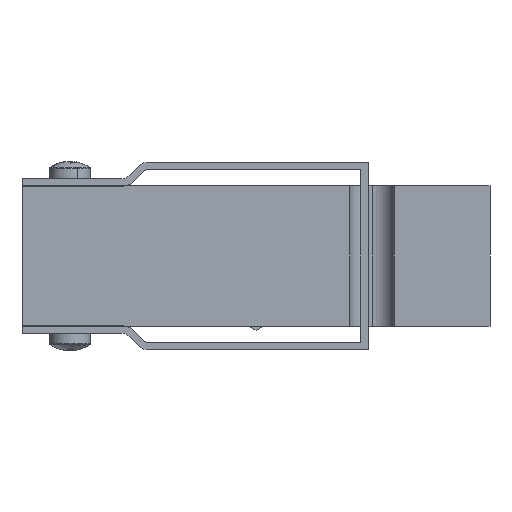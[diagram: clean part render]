
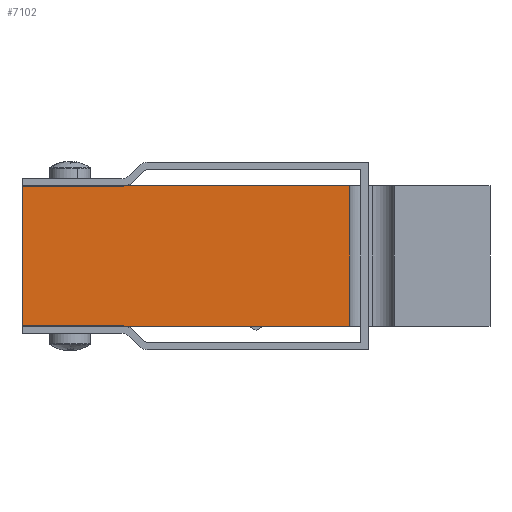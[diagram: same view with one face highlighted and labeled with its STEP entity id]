
A CAD part, left-side view. The second image highlights one B-rep face of the part: STEP entity #7102.
In plain terms, the highlighted planar face has unit normal (-1, 0, 0).
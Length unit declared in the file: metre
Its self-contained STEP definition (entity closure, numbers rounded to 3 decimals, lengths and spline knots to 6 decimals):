
#162 = EDGE_CURVE ( 'NONE', #3018, #3026, #3463, .T. ) ;
#797 = FACE_OUTER_BOUND ( 'NONE', #6184, .T. ) ;
#1117 = AXIS2_PLACEMENT_3D ( 'NONE', #4958, #4959, #4960 ) ;
#1550 = AXIS2_PLACEMENT_3D ( 'NONE', #4279, #4280, #4281 ) ;
#1551 = AXIS2_PLACEMENT_3D ( 'NONE', #4291, #4292, #4293 ) ;
#2993 = VERTEX_POINT ( 'NONE', #7553 ) ;
#2994 = VERTEX_POINT ( 'NONE', #7551 ) ;
#2995 = VERTEX_POINT ( 'NONE', #7550 ) ;
#2996 = VERTEX_POINT ( 'NONE', #7549 ) ;
#2997 = VERTEX_POINT ( 'NONE', #7548 ) ;
#2998 = VERTEX_POINT ( 'NONE', #7547 ) ;
#3018 = VERTEX_POINT ( 'NONE', #7520 ) ;
#3026 = VERTEX_POINT ( 'NONE', #7509 ) ;
#3463 = LINE ( 'NONE', #6623, #3468 ) ;
#3468 = VECTOR ( 'NONE', #6620, 1. ) ;
#4262 = DIRECTION ( 'NONE',  ( 0., 0., -1. ) ) ;
#4269 = CARTESIAN_POINT ( 'NONE',  ( 0., 0., 0.00005 ) ) ;
#4270 = DIRECTION ( 'NONE',  ( 0., -1., 0. ) ) ;
#4271 = CARTESIAN_POINT ( 'NONE',  ( 0., 0.0635, 0.019 ) ) ;
#4275 = CARTESIAN_POINT ( 'NONE',  ( 0., 0., 0. ) ) ;
#4276 = DIRECTION ( 'NONE',  ( 0., -1., 0. ) ) ;
#4279 = CARTESIAN_POINT ( 'NONE',  ( 0., 0.05, -0.00245 ) ) ;
#4280 = DIRECTION ( 'NONE',  ( 1., 0., 0. ) ) ;
#4281 = DIRECTION ( 'NONE',  ( 0., 0., -1. ) ) ;
#4285 = CARTESIAN_POINT ( 'NONE',  ( 0., 0.019, 0. ) ) ;
#4286 = DIRECTION ( 'NONE',  ( 0., 0., 1. ) ) ;
#4287 = CARTESIAN_POINT ( 'NONE',  ( 0., 0., 0.019 ) ) ;
#4288 = DIRECTION ( 'NONE',  ( 0., -1., 0. ) ) ;
#4291 = CARTESIAN_POINT ( 'NONE',  ( 0., 0.05, 0.02145 ) ) ;
#4292 = DIRECTION ( 'NONE',  ( -1., 0., 0. ) ) ;
#4293 = DIRECTION ( 'NONE',  ( 0., 0., -1. ) ) ;
#4950 = PLANE ( 'NONE',  #1117 ) ;
#4958 = CARTESIAN_POINT ( 'NONE',  ( 0., 0., 0.019 ) ) ;
#4959 = DIRECTION ( 'NONE',  ( 1., 0., 0. ) ) ;
#4960 = DIRECTION ( 'NONE',  ( 0., 0., -1. ) ) ;
#5086 = LINE ( 'NONE', #4271, #5093 ) ;
#5091 = LINE ( 'NONE', #4269, #5095 ) ;
#5093 = VECTOR ( 'NONE', #4262, 1. ) ;
#5094 = CIRCLE ( 'NONE', #1550, 0.0025 ) ;
#5095 = VECTOR ( 'NONE', #4276, 1. ) ;
#5096 = LINE ( 'NONE', #4275, #5098 ) ;
#5097 = LINE ( 'NONE', #4287, #5102 ) ;
#5098 = VECTOR ( 'NONE', #4270, 1. ) ;
#5099 = LINE ( 'NONE', #4285, #5100 ) ;
#5100 = VECTOR ( 'NONE', #4286, 1. ) ;
#5101 = CIRCLE ( 'NONE', #1551, 0.0025 ) ;
#5102 = VECTOR ( 'NONE', #4288, 1. ) ;
#6184 = EDGE_LOOP ( 'NONE', ( #7849, #7850, #7851, #7852, #7853, #7854, #7855, #7856 ) ) ;
#6620 = DIRECTION ( 'NONE',  ( 0., -1., 0. ) ) ;
#6623 = CARTESIAN_POINT ( 'NONE',  ( 0., 0., 0.01895 ) ) ;
#7102 = ADVANCED_FACE ( 'NONE', ( #797 ), #4950, .F. ) ;
#7249 = EDGE_CURVE ( 'NONE', #3018, #2994, #5086, .T. ) ;
#7250 = EDGE_CURVE ( 'NONE', #2994, #2995, #5091, .T. ) ;
#7251 = EDGE_CURVE ( 'NONE', #2995, #2996, #5094, .T. ) ;
#7252 = EDGE_CURVE ( 'NONE', #2996, #2997, #5096, .T. ) ;
#7254 = EDGE_CURVE ( 'NONE', #2997, #2998, #5099, .T. ) ;
#7255 = EDGE_CURVE ( 'NONE', #2993, #2998, #5097, .T. ) ;
#7256 = EDGE_CURVE ( 'NONE', #3026, #2993, #5101, .T. ) ;
#7509 = CARTESIAN_POINT ( 'NONE',  ( 0., 0.05, 0.01895 ) ) ;
#7520 = CARTESIAN_POINT ( 'NONE',  ( 0., 0.0635, 0.01895 ) ) ;
#7547 = CARTESIAN_POINT ( 'NONE',  ( 0., 0.019, 0.019 ) ) ;
#7548 = CARTESIAN_POINT ( 'NONE',  ( 0., 0.019, 0. ) ) ;
#7549 = CARTESIAN_POINT ( 'NONE',  ( 0., 0.049503, 0. ) ) ;
#7550 = CARTESIAN_POINT ( 'NONE',  ( 0., 0.05, 0.00005 ) ) ;
#7551 = CARTESIAN_POINT ( 'NONE',  ( 0., 0.0635, 0.00005 ) ) ;
#7553 = CARTESIAN_POINT ( 'NONE',  ( 0., 0.049503, 0.019 ) ) ;
#7849 = ORIENTED_EDGE ( 'NONE', *, *, #162, .F. ) ;
#7850 = ORIENTED_EDGE ( 'NONE', *, *, #7249, .T. ) ;
#7851 = ORIENTED_EDGE ( 'NONE', *, *, #7250, .T. ) ;
#7852 = ORIENTED_EDGE ( 'NONE', *, *, #7251, .T. ) ;
#7853 = ORIENTED_EDGE ( 'NONE', *, *, #7252, .T. ) ;
#7854 = ORIENTED_EDGE ( 'NONE', *, *, #7254, .T. ) ;
#7855 = ORIENTED_EDGE ( 'NONE', *, *, #7255, .F. ) ;
#7856 = ORIENTED_EDGE ( 'NONE', *, *, #7256, .F. ) ;
